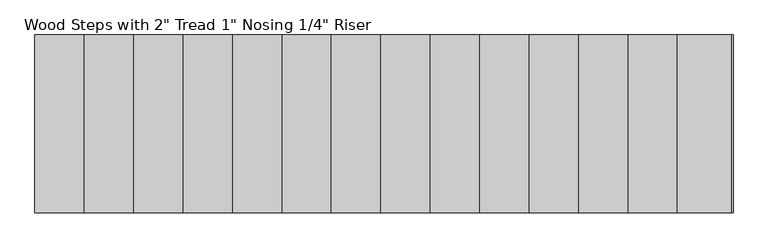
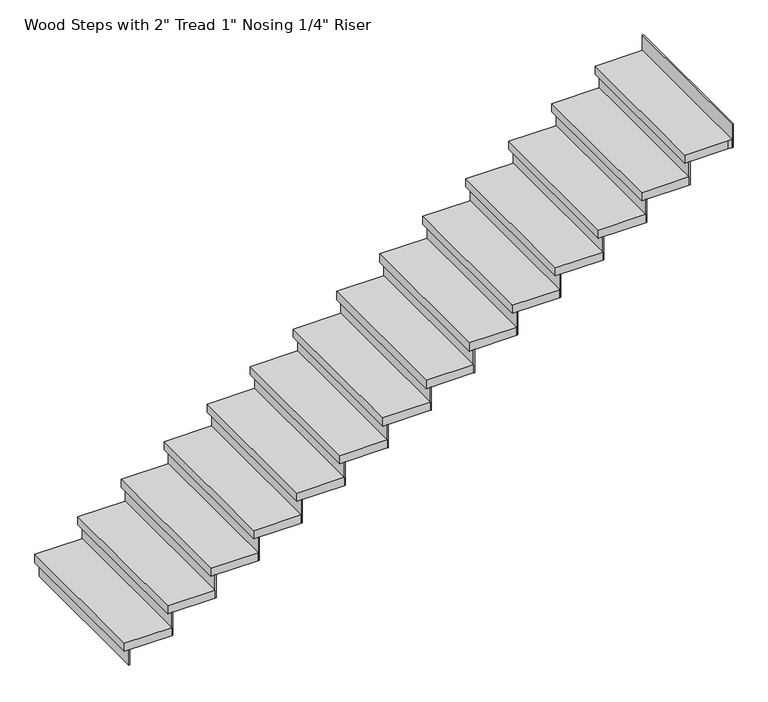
"""IFC4 building model written with IfcOpenShell, lengths in millimetres: stair flight geometry."""

from ifc_helpers import new_model, si_unit, frame, origin, origin_with_axes, place, context, project, spatial, polyline, outline, extrude, source, transform, mapped, element, save


def stair_flight_e5405b16(model_context):
    return source(origin(), model_context, "Body", "SweptSolid", [
        extrude(outline(polyline([(-50650.1618252, 31669.6177722), (-50656.5118252, 31669.6177722), (-50656.5118252, 32584.0177722), (-50650.1618252, 32584.0177722), (-50650.1618252, 31669.6177722)])), origin_with_axes(), (0.0, 0.0, 1.0), 94.3428571),
        extrude(outline(polyline([(-50402.5118252, 32584.0177722), (-50402.5118252, 31669.6177722), (-50681.9118252, 31669.6177722), (-50681.9118252, 32584.0177722), (-50402.5118252, 32584.0177722)])), frame((0.0, 0.0, 94.3428571), z_axis=(0.0, 0.0, 1.0), x_axis=(1.0, 0.0, 0.0)), (0.0, 0.0, 1.0), 50.8),
        extrude(outline(polyline([(-50396.1618252, 31669.6177722), (-50402.5118252, 31669.6177722), (-50402.5118252, 32584.0177722), (-50396.1618252, 32584.0177722), (-50396.1618252, 31669.6177722)])), frame((0.0, 0.0, 94.3428571), z_axis=(0.0, 0.0, 1.0), x_axis=(1.0, 0.0, 0.0)), (0.0, 0.0, 1.0), 145.1428571),
        extrude(outline(polyline([(-50148.5118252, 32584.0177722), (-50148.5118252, 31669.6177722), (-50427.9118252, 31669.6177722), (-50427.9118252, 32584.0177722), (-50148.5118252, 32584.0177722)])), frame((0.0, 0.0, 239.4857143), z_axis=(0.0, 0.0, 1.0), x_axis=(1.0, 0.0, 0.0)), (0.0, 0.0, 1.0), 50.8),
        extrude(outline(polyline([(-50142.1618252, 31669.6177722), (-50148.5118252, 31669.6177722), (-50148.5118252, 32584.0177722), (-50142.1618252, 32584.0177722), (-50142.1618252, 31669.6177722)])), frame((0.0, 0.0, 239.4857143), z_axis=(0.0, 0.0, 1.0), x_axis=(1.0, 0.0, 0.0)), (0.0, 0.0, 1.0), 145.1428571),
        extrude(outline(polyline([(-49894.5118252, 32584.0177722), (-49894.5118252, 31669.6177722), (-50173.9118252, 31669.6177722), (-50173.9118252, 32584.0177722), (-49894.5118252, 32584.0177722)])), frame((0.0, 0.0, 384.6285714), z_axis=(0.0, 0.0, 1.0), x_axis=(1.0, 0.0, 0.0)), (0.0, 0.0, 1.0), 50.8),
        extrude(outline(polyline([(-49888.1618252, 31669.6177722), (-49894.5118252, 31669.6177722), (-49894.5118252, 32584.0177722), (-49888.1618252, 32584.0177722), (-49888.1618252, 31669.6177722)])), frame((0.0, 0.0, 384.6285714), z_axis=(0.0, 0.0, 1.0), x_axis=(1.0, 0.0, 0.0)), (0.0, 0.0, 1.0), 145.1428571),
        extrude(outline(polyline([(-49640.5118252, 32584.0177722), (-49640.5118252, 31669.6177722), (-49919.9118252, 31669.6177722), (-49919.9118252, 32584.0177722), (-49640.5118252, 32584.0177722)])), frame((0.0, 0.0, 529.7714286), z_axis=(0.0, 0.0, 1.0), x_axis=(1.0, 0.0, 0.0)), (0.0, 0.0, 1.0), 50.8),
        extrude(outline(polyline([(-49634.1618252, 31669.6177722), (-49640.5118252, 31669.6177722), (-49640.5118252, 32584.0177722), (-49634.1618252, 32584.0177722), (-49634.1618252, 31669.6177722)])), frame((0.0, 0.0, 529.7714286), z_axis=(0.0, 0.0, 1.0), x_axis=(1.0, 0.0, 0.0)), (0.0, 0.0, 1.0), 145.1428571),
        extrude(outline(polyline([(-49386.5118252, 32584.0177722), (-49386.5118252, 31669.6177722), (-49665.9118252, 31669.6177722), (-49665.9118252, 32584.0177722), (-49386.5118252, 32584.0177722)])), frame((0.0, 0.0, 674.9142857), z_axis=(0.0, 0.0, 1.0), x_axis=(1.0, 0.0, 0.0)), (0.0, 0.0, 1.0), 50.8),
        extrude(outline(polyline([(-49380.1618252, 31669.6177722), (-49386.5118252, 31669.6177722), (-49386.5118252, 32584.0177722), (-49380.1618252, 32584.0177722), (-49380.1618252, 31669.6177722)])), frame((0.0, 0.0, 674.9142857), z_axis=(0.0, 0.0, 1.0), x_axis=(1.0, 0.0, 0.0)), (0.0, 0.0, 1.0), 145.1428571),
        extrude(outline(polyline([(-49132.5118252, 32584.0177722), (-49132.5118252, 31669.6177722), (-49411.9118252, 31669.6177722), (-49411.9118252, 32584.0177722), (-49132.5118252, 32584.0177722)])), frame((0.0, 0.0, 820.0571429), z_axis=(0.0, 0.0, 1.0), x_axis=(1.0, 0.0, 0.0)), (0.0, 0.0, 1.0), 50.8),
        extrude(outline(polyline([(-49126.1618252, 31669.6177722), (-49132.5118252, 31669.6177722), (-49132.5118252, 32584.0177722), (-49126.1618252, 32584.0177722), (-49126.1618252, 31669.6177722)])), frame((0.0, 0.0, 820.0571429), z_axis=(0.0, 0.0, 1.0), x_axis=(1.0, 0.0, 0.0)), (0.0, 0.0, 1.0), 145.1428571),
        extrude(outline(polyline([(-48878.5118252, 32584.0177722), (-48878.5118252, 31669.6177722), (-49157.9118252, 31669.6177722), (-49157.9118252, 32584.0177722), (-48878.5118252, 32584.0177722)])), frame((0.0, 0.0, 965.2), z_axis=(0.0, 0.0, 1.0), x_axis=(1.0, 0.0, 0.0)), (0.0, 0.0, 1.0), 50.8),
        extrude(outline(polyline([(-48872.1618252, 31669.6177722), (-48878.5118252, 31669.6177722), (-48878.5118252, 32584.0177722), (-48872.1618252, 32584.0177722), (-48872.1618252, 31669.6177722)])), frame((0.0, 0.0, 965.2), z_axis=(0.0, 0.0, 1.0), x_axis=(1.0, 0.0, 0.0)), (0.0, 0.0, 1.0), 145.1428571),
        extrude(outline(polyline([(-48624.5118252, 32584.0177722), (-48624.5118252, 31669.6177722), (-48903.9118252, 31669.6177722), (-48903.9118252, 32584.0177722), (-48624.5118252, 32584.0177722)])), frame((0.0, 0.0, 1110.3428571), z_axis=(0.0, 0.0, 1.0), x_axis=(1.0, 0.0, 0.0)), (0.0, 0.0, 1.0), 50.8),
        extrude(outline(polyline([(-48618.1618252, 31669.6177722), (-48624.5118252, 31669.6177722), (-48624.5118252, 32584.0177722), (-48618.1618252, 32584.0177722), (-48618.1618252, 31669.6177722)])), frame((0.0, 0.0, 1110.3428571), z_axis=(0.0, 0.0, 1.0), x_axis=(1.0, 0.0, 0.0)), (0.0, 0.0, 1.0), 145.1428571),
        extrude(outline(polyline([(-48370.5118252, 32584.0177722), (-48370.5118252, 31669.6177722), (-48649.9118252, 31669.6177722), (-48649.9118252, 32584.0177722), (-48370.5118252, 32584.0177722)])), frame((0.0, 0.0, 1255.4857143), z_axis=(0.0, 0.0, 1.0), x_axis=(1.0, 0.0, 0.0)), (0.0, 0.0, 1.0), 50.8),
        extrude(outline(polyline([(-48364.1618252, 31669.6177722), (-48370.5118252, 31669.6177722), (-48370.5118252, 32584.0177722), (-48364.1618252, 32584.0177722), (-48364.1618252, 31669.6177722)])), frame((0.0, 0.0, 1255.4857143), z_axis=(0.0, 0.0, 1.0), x_axis=(1.0, 0.0, 0.0)), (0.0, 0.0, 1.0), 145.1428571),
        extrude(outline(polyline([(-48116.5118252, 32584.0177722), (-48116.5118252, 31669.6177722), (-48395.9118252, 31669.6177722), (-48395.9118252, 32584.0177722), (-48116.5118252, 32584.0177722)])), frame((0.0, 0.0, 1400.6285714), z_axis=(0.0, 0.0, 1.0), x_axis=(1.0, 0.0, 0.0)), (0.0, 0.0, 1.0), 50.8),
        extrude(outline(polyline([(-48110.1618252, 31669.6177722), (-48116.5118252, 31669.6177722), (-48116.5118252, 32584.0177722), (-48110.1618252, 32584.0177722), (-48110.1618252, 31669.6177722)])), frame((0.0, 0.0, 1400.6285714), z_axis=(0.0, 0.0, 1.0), x_axis=(1.0, 0.0, 0.0)), (0.0, 0.0, 1.0), 145.1428571),
        extrude(outline(polyline([(-47862.5118252, 32584.0177722), (-47862.5118252, 31669.6177722), (-48141.9118252, 31669.6177722), (-48141.9118252, 32584.0177722), (-47862.5118252, 32584.0177722)])), frame((0.0, 0.0, 1545.7714286), z_axis=(0.0, 0.0, 1.0), x_axis=(1.0, 0.0, 0.0)), (0.0, 0.0, 1.0), 50.8),
        extrude(outline(polyline([(-47856.1618252, 31669.6177722), (-47862.5118252, 31669.6177722), (-47862.5118252, 32584.0177722), (-47856.1618252, 32584.0177722), (-47856.1618252, 31669.6177722)])), frame((0.0, 0.0, 1545.7714286), z_axis=(0.0, 0.0, 1.0), x_axis=(1.0, 0.0, 0.0)), (0.0, 0.0, 1.0), 145.1428571),
        extrude(outline(polyline([(-47608.5118252, 32584.0177722), (-47608.5118252, 31669.6177722), (-47887.9118252, 31669.6177722), (-47887.9118252, 32584.0177722), (-47608.5118252, 32584.0177722)])), frame((0.0, 0.0, 1690.9142857), z_axis=(0.0, 0.0, 1.0), x_axis=(1.0, 0.0, 0.0)), (0.0, 0.0, 1.0), 50.8),
        extrude(outline(polyline([(-47602.1618252, 31669.6177722), (-47608.5118252, 31669.6177722), (-47608.5118252, 32584.0177722), (-47602.1618252, 32584.0177722), (-47602.1618252, 31669.6177722)])), frame((0.0, 0.0, 1690.9142857), z_axis=(0.0, 0.0, 1.0), x_axis=(1.0, 0.0, 0.0)), (0.0, 0.0, 1.0), 145.1428571),
        extrude(outline(polyline([(-47354.5118252, 32584.0177722), (-47354.5118252, 31669.6177722), (-47633.9118252, 31669.6177722), (-47633.9118252, 32584.0177722), (-47354.5118252, 32584.0177722)])), frame((0.0, 0.0, 1836.0571429), z_axis=(0.0, 0.0, 1.0), x_axis=(1.0, 0.0, 0.0)), (0.0, 0.0, 1.0), 50.8),
        extrude(outline(polyline([(-47094.1618252, 31669.6177722), (-47100.5118252, 31669.6177722), (-47100.5118252, 32584.0177722), (-47094.1618252, 32584.0177722), (-47094.1618252, 31669.6177722)])), frame((0.0, 0.0, 1981.2), z_axis=(0.0, 0.0, 1.0), x_axis=(1.0, 0.0, 0.0)), (0.0, 0.0, 1.0), 145.1428571),
        extrude(outline(polyline([(-47348.1618252, 31669.6177722), (-47354.5118252, 31669.6177722), (-47354.5118252, 32584.0177722), (-47348.1618252, 32584.0177722), (-47348.1618252, 31669.6177722)])), frame((0.0, 0.0, 1836.0571429), z_axis=(0.0, 0.0, 1.0), x_axis=(1.0, 0.0, 0.0)), (0.0, 0.0, 1.0), 145.1428571),
        extrude(outline(polyline([(-47100.5118252, 32584.0177722), (-47100.5118252, 31669.6177722), (-47125.9118252, 31669.6177722), (-47379.9118252, 31669.6177722), (-47379.9118252, 32584.0177722), (-47125.9118252, 32584.0177722), (-47100.5118252, 32584.0177722)])), frame((0.0, 0.0, 1981.2), z_axis=(0.0, 0.0, 1.0), x_axis=(1.0, 0.0, 0.0)), (0.0, 0.0, 1.0), 50.8),
    ])


if __name__ == "__main__":
    model = new_model("IFC4")
    model_context = context("Model", 3, world=origin())
    ifc_project = project(units=[si_unit("LENGTHUNIT", "METRE", prefix="MILLI")], contexts=[model_context])
    site = spatial("IfcSite", under=ifc_project)
    building = spatial("IfcBuilding", under=site)
    placement = place(None, origin())
    stair_flight_shape = stair_flight_e5405b16(model_context)
    element("IfcStairFlight", 1, ObjectType="Wood Steps with 2\" Tread 1\" Nosing 1/4\" Riser", at=placement, inside=building, context=model_context, shape_type="MappedRepresentation", body=[
        mapped(stair_flight_shape, transform((0.0, 0.0, 0.0), x_axis=(1.0, 0.0, 0.0), y_axis=(0.0, 1.0, 0.0), z_axis=(0.0, 0.0, 1.0))),
    ])
    save(model, "model.ifc")
